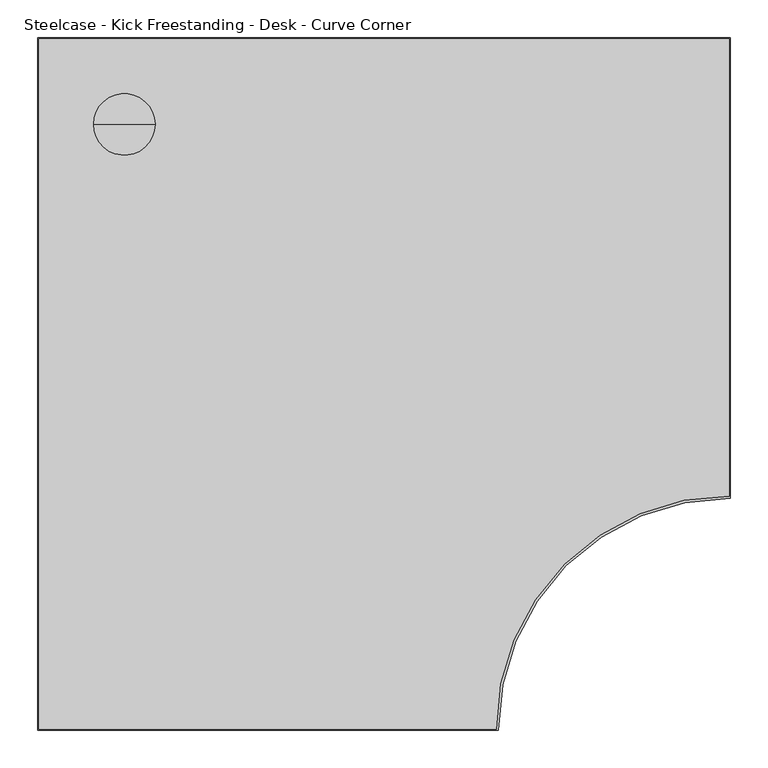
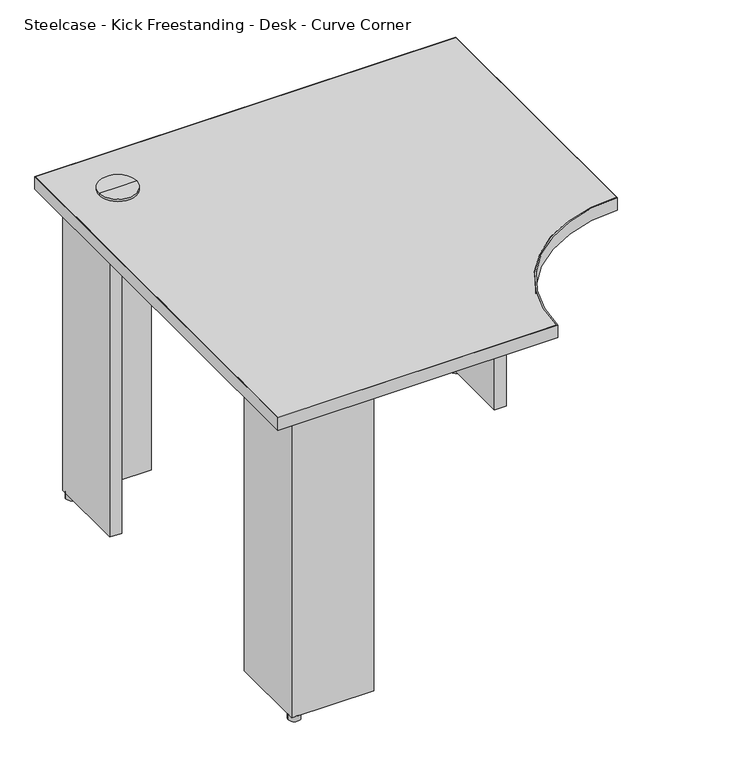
"""IFC4 building model written with IfcOpenShell, lengths in millimetres: furniture geometry, Steelcase - Kick Freestanding - Desk - Curve Corner : 24D x 36W - Two Clear Access Support - LPL."""

from ifc_helpers import new_model, si_unit, point, frame, frame_2d, origin, origin_with_axes, place, context, project, spatial, polyline, circle_curve, trimmed, segment, composite_curve, outline, extrude, source, transform, mapped, element, save
from ifc_brep_helpers import plane_surface, cylinder_surface, advanced_brep


def steelcase_kick_freestanding_desk_curve_corner_17ab9d21(model_context):
    return source(origin(), model_context, "Body", "SolidModel", [
        extrude(outline(polyline([(721.6393822, -63.5), (721.6393822, -38.1), (899.4393579, -38.1), (899.4393579, -215.8999939), (873.5313463, -215.8999939), (873.5313463, -63.5), (721.6393822, -63.5)])), frame((0.0, 0.0, 12.446), z_axis=(0.0, 0.0, 1.0), x_axis=(1.0, 0.0, 0.0)), (0.0, 0.0, 1.0), 682.498),
        extrude(outline(polyline([(215.8999939, -63.5), (63.5, -63.5), (63.5, -215.8999939), (38.1, -215.8999939), (38.1, -38.1), (215.8999939, -38.1), (215.8999939, -63.5)])), frame((0.0, 0.0, 12.446), z_axis=(0.0, 0.0, 1.0), x_axis=(1.0, 0.0, 0.0)), (0.0, 0.0, 1.0), 682.498),
        advanced_brep(
        [(114.3, -114.3, 728.98), (154.94, -114.3, 728.98), (73.66, -114.3, 728.98), (76.1699693, -114.3, 694.944), (152.4300307, -114.3, 694.944), (114.3, -114.3, 694.944), (76.1699693, -114.3, 723.9), (152.4300307, -114.3, 723.9), (73.66, -114.3, 723.9), (154.94, -114.3, 723.9)],
        [
            (0, 1),
            (1, 2, circle_curve(frame((114.3, -114.3, 728.98), z_axis=(0.0, 0.0, 1.0), x_axis=(1.0, 0.0, 0.0)), 40.64)),
            (2, 0),
            (2, 1, circle_curve(frame((114.3, -114.3, 728.98), z_axis=(0.0, 0.0, 1.0), x_axis=(1.0, 0.0, 0.0)), 40.64)),
            (3, 4, circle_curve(frame((114.3, -114.3, 694.944), z_axis=(0.0, 0.0, -1.0), x_axis=(1.0, 0.0, 0.0)), 38.1300307)),
            (4, 5),
            (5, 3),
            (4, 3, circle_curve(frame((114.3, -114.3, 694.944), z_axis=(0.0, 0.0, -1.0), x_axis=(1.0, 0.0, 0.0)), 38.1300307)),
            (6, 7, circle_curve(frame((114.3, -114.3, 723.9), z_axis=(0.0, 0.0, -1.0), x_axis=(1.0, 0.0, 0.0)), 38.1300307)),
            (7, 4),
            (3, 6),
            (7, 6, circle_curve(frame((114.3, -114.3, 723.9), z_axis=(0.0, 0.0, -1.0), x_axis=(1.0, 0.0, 0.0)), 38.1300307)),
            (8, 9, circle_curve(frame((114.3, -114.3, 723.9), z_axis=(0.0, 0.0, -1.0), x_axis=(1.0, 0.0, 0.0)), 40.64)),
            (9, 7),
            (6, 8),
            (9, 8, circle_curve(frame((114.3, -114.3, 723.9), z_axis=(0.0, 0.0, -1.0), x_axis=(1.0, 0.0, 0.0)), 40.64)),
            (1, 9),
            (8, 2),
        ],
        [
            plane_surface(frame((114.3, -114.3, 728.98), z_axis=(0.0, 0.0, 1.0), x_axis=(1.0, 0.0, 0.0))),
            plane_surface(frame((114.3, -114.3, 694.944), z_axis=(0.0, 0.0, -1.0), x_axis=(1.0, 0.0, 0.0))),
            cylinder_surface(frame((114.3, -114.3, 728.98), z_axis=(0.0, 0.0, 1.0), x_axis=(1.0, 0.0, 0.0)), 38.1300307),
            plane_surface(frame((114.3, -114.3, 723.9), z_axis=(0.0, 0.0, -1.0), x_axis=(1.0, 0.0, 0.0))),
            cylinder_surface(frame((114.3, -114.3, 728.98), z_axis=(0.0, 0.0, 1.0), x_axis=(1.0, 0.0, 0.0)), 40.64),
        ],
        [
            (0, [[1, 2, 3]]),
            (0, [[-3, 4, -1]]),
            (1, [[5, 6, 7]]),
            (1, [[8, -7, -6]]),
            (2, [[9, 10, -5, 11]]),
            (2, [[12, -11, -8, -10]]),
            (3, [[13, 14, -9, 15]]),
            (3, [[16, -15, -12, -14]]),
            (4, [[-2, 17, -13, 18]]),
            (4, [[-4, -18, -16, -17]]),
        ],
    ),
        extrude(outline(composite_curve([segment(trimmed(circle_curve(frame_2d((50.8, -50.8)), 12.7), [point((38.1, -50.8))], [point((63.5, -50.8))], False, "CARTESIAN"), True, "CONTINUOUS"), segment(trimmed(circle_curve(frame_2d((50.8, -50.8)), 12.7), [point((63.5, -50.8))], [point((38.1, -50.8))], False, "CARTESIAN"), True, "CONTINUOUS")], self_intersect=False)), origin_with_axes(), (0.0, 0.0, 1.0), 12.446),
        extrude(outline(composite_curve([segment(trimmed(circle_curve(frame_2d((50.8, -887.7300073)), 12.7484998), [point((38.0515002, -887.7300073))], [point((63.5484998, -887.7300073))], False, "CARTESIAN"), True, "CONTINUOUS"), segment(trimmed(circle_curve(frame_2d((50.8, -887.7300073)), 12.7484998), [point((63.5484998, -887.7300073))], [point((38.0515002, -887.7300073))], False, "CARTESIAN"), True, "CONTINUOUS")], self_intersect=False)), origin_with_axes(), (0.0, 0.0, 1.0), 12.446),
        extrude(outline(composite_curve([segment(trimmed(circle_curve(frame_2d((886.4853521, -50.8)), 12.7), [point((873.7853521, -50.8))], [point((899.1853521, -50.8))], False, "CARTESIAN"), True, "CONTINUOUS"), segment(trimmed(circle_curve(frame_2d((886.4853521, -50.8)), 12.7), [point((899.1853521, -50.8))], [point((873.7853521, -50.8))], False, "CARTESIAN"), True, "CONTINUOUS")], self_intersect=False)), origin_with_axes(), (0.0, 0.0, 1.0), 12.446),
        extrude(outline(polyline([(215.8999939, -875.0300194), (215.8999939, -900.4299952), (38.1, -900.4299952), (38.1, -722.6300194), (63.5, -722.6300194), (63.5, -875.0300194), (215.8999939, -875.0300194)])), frame((0.0, 0.0, 12.446), z_axis=(0.0, 0.0, 1.0), x_axis=(1.0, 0.0, 0.0)), (0.0, 0.0, 1.0), 682.498),
        extrude(outline(composite_curve([segment(polyline([(0.9906, -913.4093628), (0.9906, -0.9906), (913.4093628, -0.9906), (913.4093628, -605.3354109)]), True, "CONTINUOUS"), segment(trimmed(circle_curve(frame_2d((912.1393458, -912.1393458)), 306.8065636), [point((913.4093628, -605.3354109))], [point((605.3354109, -913.4093628))], True, "CARTESIAN"), True, "CONTINUOUS"), segment(polyline([(605.3354109, -913.4093628), (0.9906, -913.4093628)]), True, "CONTINUOUS")], self_intersect=False)), frame((0.0, 0.0, 694.944), z_axis=(0.0, 0.0, 1.0), x_axis=(1.0, 0.0, 0.0)), (0.0, 0.0, 1.0), 28.956),
        extrude(outline(composite_curve([segment(polyline([(914.4, 0.0), (914.4, -608.332629)]), True, "CONTINUOUS"), segment(trimmed(circle_curve(frame_2d((913.129983, -913.129983)), 304.8), [point((914.4, -608.332629))], [point((608.332629, -914.4))], True, "CARTESIAN"), True, "CONTINUOUS"), segment(polyline([(608.332629, -914.4), (0.0, -914.4), (0.0, 0.0), (914.4, 0.0)]), True, "CONTINUOUS")], self_intersect=False), holes=[composite_curve([segment(polyline([(913.4093628, -0.9906), (0.9906, -0.9906), (0.9906, -913.4093628), (605.3354109, -913.4093628)]), True, "CONTINUOUS"), segment(trimmed(circle_curve(frame_2d((912.1393458, -912.1393458)), 306.8065636), [point((605.3354109, -913.4093628))], [point((913.4093628, -605.3354109))], False, "CARTESIAN"), True, "CONTINUOUS"), segment(polyline([(913.4093628, -605.3354109), (913.4093628, -0.9906)]), True, "CONTINUOUS")], self_intersect=False)]), frame((0.0, 0.0, 694.944), z_axis=(0.0, 0.0, 1.0), x_axis=(1.0, 0.0, 0.0)), (0.0, 0.0, 1.0), 28.956),
    ])


if __name__ == "__main__":
    model = new_model("IFC4")
    model_context = context("Model", 3, world=origin())
    ifc_project = project(units=[si_unit("LENGTHUNIT", "METRE", prefix="MILLI")], contexts=[model_context])
    site = spatial("IfcSite", under=ifc_project)
    building = spatial("IfcBuilding", under=site)
    placement = place(None, origin())
    steelcase_kick_freestanding_desk_curve_corner_shape = steelcase_kick_freestanding_desk_curve_corner_17ab9d21(model_context)
    element("IfcFurniture", 1, ObjectType="Steelcase - Kick Freestanding - Desk - Curve Corner : 24D x 36W - Two Clear Access Support - LPL", at=placement, inside=building, context=model_context, shape_type="MappedRepresentation", body=[
        mapped(steelcase_kick_freestanding_desk_curve_corner_shape, transform((0.0, 0.0, 0.0), x_axis=(1.0, 0.0, 0.0), y_axis=(0.0, 1.0, 0.0), z_axis=(0.0, 0.0, 1.0))),
    ])
    save(model, "model.ifc")
